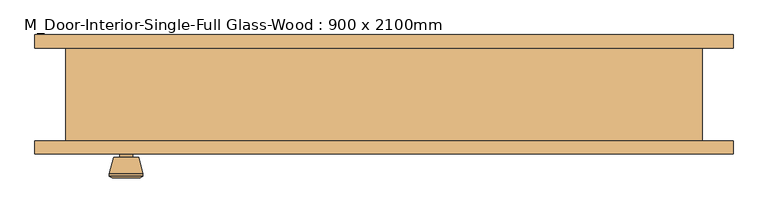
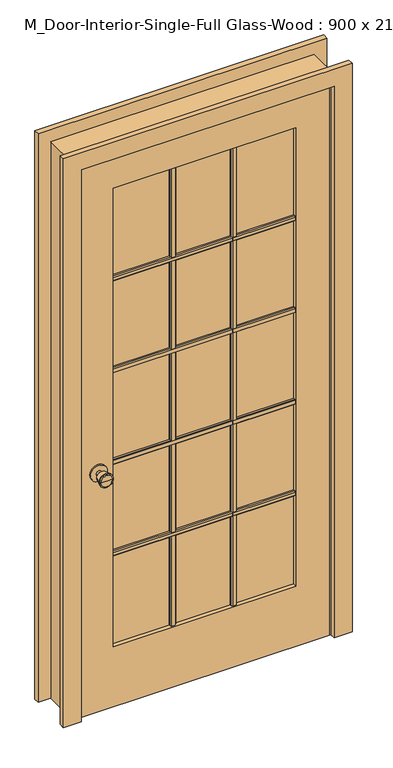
"""IFC4 building model written with IfcOpenShell, lengths in millimetres: door geometry, M_Door-Interior-Single-Full Glass-Wood : 900 x 2100mm."""

from ifc_helpers import new_model, si_unit, point, frame, frame_2d, origin, place, context, project, spatial, polyline, circle_curve, trimmed, segment, composite_curve, outline, extrude, faceted_brep, source, transform, mapped, element, save
from ifc_brep_helpers import plane_surface, cylinder_surface, revolved_surface, advanced_brep


def m_door_interior_single_full_glass_wood_900_x_2100mm_7a11e5a0(model_context):
    return source(origin(), model_context, "Body", "SolidModel", [
        extrude(outline(polyline([(-52.075, 1639.525), (-52.075, 1620.475), (-58.425, 1620.475), (-61.6, 1623.65), (-61.6, 1636.35), (-58.425, 1639.525), (-52.075, 1639.525)])), frame((-330.0, 0.0, 0.0), z_axis=(1.0, 0.0, 0.0), x_axis=(0.0, 1.0, 0.0)), (0.0, 0.0, 1.0), 660.0),
        extrude(outline(polyline([(-52.075, 1289.525), (-52.075, 1270.475), (-58.425, 1270.475), (-61.6, 1273.65), (-61.6, 1286.35), (-58.425, 1289.525), (-52.075, 1289.525)])), frame((-330.0, 0.0, 0.0), z_axis=(1.0, 0.0, 0.0), x_axis=(0.0, 1.0, 0.0)), (0.0, 0.0, 1.0), 660.0),
        extrude(outline(polyline([(-52.075, 939.525), (-52.075, 920.475), (-58.425, 920.475), (-61.6, 923.65), (-61.6, 936.35), (-58.425, 939.525), (-52.075, 939.525)])), frame((-330.0, 0.0, 0.0), z_axis=(1.0, 0.0, 0.0), x_axis=(0.0, 1.0, 0.0)), (0.0, 0.0, 1.0), 660.0),
        extrude(outline(polyline([(-52.075, 589.525), (-52.075, 570.475), (-58.425, 570.475), (-61.6, 573.65), (-61.6, 586.35), (-58.425, 589.525), (-52.075, 589.525)])), frame((-330.0, 0.0, 0.0), z_axis=(1.0, 0.0, 0.0), x_axis=(0.0, 1.0, 0.0)), (0.0, 0.0, 1.0), 660.0),
        extrude(outline(polyline([(100.475, -52.075), (119.525, -52.075), (119.525, -58.425), (116.35, -61.6), (103.65, -61.6), (100.475, -58.425), (100.475, -52.075)])), frame((0.0, 0.0, 230.0), z_axis=(0.0, 0.0, 1.0), x_axis=(1.0, 0.0, 0.0)), (0.0, 0.0, 1.0), 1750.0),
        extrude(outline(polyline([(-119.525, -52.075), (-100.475, -52.075), (-100.475, -58.425), (-103.65, -61.6), (-116.35, -61.6), (-119.525, -58.425), (-119.525, -52.075)])), frame((0.0, 0.0, 230.0), z_axis=(0.0, 0.0, 1.0), x_axis=(1.0, 0.0, 0.0)), (0.0, 0.0, 1.0), 1750.0),
        extrude(outline(polyline([(-45.075, 1639.525), (-38.725, 1639.525), (-35.55, 1636.35), (-35.55, 1623.65), (-38.725, 1620.475), (-45.075, 1620.475), (-45.075, 1639.525)])), frame((-330.0, 0.0, 0.0), z_axis=(1.0, 0.0, 0.0), x_axis=(0.0, 1.0, 0.0)), (0.0, 0.0, 1.0), 660.0),
        extrude(outline(polyline([(-45.075, 1289.525), (-38.725, 1289.525), (-35.55, 1286.35), (-35.55, 1273.65), (-38.725, 1270.475), (-45.075, 1270.475), (-45.075, 1289.525)])), frame((-330.0, 0.0, 0.0), z_axis=(1.0, 0.0, 0.0), x_axis=(0.0, 1.0, 0.0)), (0.0, 0.0, 1.0), 660.0),
        extrude(outline(polyline([(-45.075, 939.525), (-38.725, 939.525), (-35.55, 936.35), (-35.55, 923.65), (-38.725, 920.475), (-45.075, 920.475), (-45.075, 939.525)])), frame((-330.0, 0.0, 0.0), z_axis=(1.0, 0.0, 0.0), x_axis=(0.0, 1.0, 0.0)), (0.0, 0.0, 1.0), 660.0),
        extrude(outline(polyline([(-45.075, 589.525), (-38.725, 589.525), (-35.55, 586.35), (-35.55, 573.65), (-38.725, 570.475), (-45.075, 570.475), (-45.075, 589.525)])), frame((-330.0, 0.0, 0.0), z_axis=(1.0, 0.0, 0.0), x_axis=(0.0, 1.0, 0.0)), (0.0, 0.0, 1.0), 660.0),
        extrude(outline(polyline([(100.475, -45.075), (100.475, -38.725), (103.65, -35.55), (116.35, -35.55), (119.525, -38.725), (119.525, -45.075), (100.475, -45.075)])), frame((0.0, 0.0, 230.0), z_axis=(0.0, 0.0, 1.0), x_axis=(1.0, 0.0, 0.0)), (0.0, 0.0, 1.0), 1750.0),
        extrude(outline(polyline([(-119.525, -45.075), (-119.525, -38.725), (-116.35, -35.55), (-103.65, -35.55), (-100.475, -38.725), (-100.475, -45.075), (-119.525, -45.075)])), frame((0.0, 0.0, 230.0), z_axis=(0.0, 0.0, 1.0), x_axis=(1.0, 0.0, 0.0)), (0.0, 0.0, 1.0), 1750.0),
        advanced_brep(
        [(-385.0, -25.075, 914.4), (-395.0, -25.075, 914.4), (-375.0, -25.075, 914.4), (-364.5241324, 23.925, 914.4), (-405.4758676, 23.925, 914.4), (-385.0, 23.925, 914.4), (-360.0, 22.0971319, 914.4), (-410.0, 22.0971319, 914.4), (-360.0, 18.6334537, 914.4), (-410.0, 18.6334537, 914.4), (-366.363764, -6.075, 914.4), (-403.636236, -6.075, 914.4), (-375.0, -6.075, 914.4), (-395.0, -6.075, 914.4)],
        [
            (0, 1),
            (1, 2, circle_curve(frame((-385.0, -25.075, 914.4), z_axis=(0.0, -1.0, 0.0), x_axis=(-1.0, 0.0, 0.0)), 10.0)),
            (2, 0),
            (2, 1, circle_curve(frame((-385.0, -25.075, 914.4), z_axis=(0.0, -1.0, 0.0), x_axis=(-1.0, 0.0, 0.0)), 10.0)),
            (3, 4, circle_curve(frame((-385.0, 23.925, 914.4), z_axis=(0.0, 1.0, 0.0), x_axis=(-1.0, 0.0, 0.0)), 20.4758676)),
            (4, 5),
            (5, 3),
            (4, 3, circle_curve(frame((-385.0, 23.925, 914.4), z_axis=(0.0, 1.0, 0.0), x_axis=(-1.0, 0.0, 0.0)), 20.4758676)),
            (6, 7, circle_curve(frame((-385.0, 22.0971319, 914.4), z_axis=(0.0, 1.0, 0.0), x_axis=(-1.0, 0.0, 0.0)), 25.0)),
            (7, 4),
            (3, 6),
            (7, 6, circle_curve(frame((-385.0, 22.0971319, 914.4), z_axis=(0.0, 1.0, 0.0), x_axis=(-1.0, 0.0, 0.0)), 25.0)),
            (8, 9, circle_curve(frame((-385.0, 18.6334537, 914.4), z_axis=(0.0, 1.0, 0.0), x_axis=(-1.0, 0.0, 0.0)), 25.0)),
            (9, 7),
            (6, 8),
            (9, 8, circle_curve(frame((-385.0, 18.6334537, 914.4), z_axis=(0.0, 1.0, 0.0), x_axis=(-1.0, 0.0, 0.0)), 25.0)),
            (10, 11, circle_curve(frame((-385.0, -6.075, 914.4), z_axis=(0.0, 1.0, 0.0), x_axis=(-1.0, 0.0, 0.0)), 18.636236)),
            (11, 9),
            (8, 10),
            (11, 10, circle_curve(frame((-385.0, -6.075, 914.4), z_axis=(0.0, 1.0, 0.0), x_axis=(-1.0, 0.0, 0.0)), 18.636236)),
            (12, 13, circle_curve(frame((-385.0, -6.075, 914.4), z_axis=(0.0, 1.0, 0.0), x_axis=(-1.0, 0.0, 0.0)), 10.0)),
            (13, 11),
            (10, 12),
            (13, 12, circle_curve(frame((-385.0, -6.075, 914.4), z_axis=(0.0, 1.0, 0.0), x_axis=(-1.0, 0.0, 0.0)), 10.0)),
            (1, 13),
            (12, 2),
        ],
        [
            plane_surface(frame((-385.0, -25.075, 914.4), z_axis=(0.0, -1.0, 0.0), x_axis=(-1.0, 0.0, 0.0))),
            plane_surface(frame((-385.0, 23.925, 914.4), z_axis=(0.0, 1.0, 0.0), x_axis=(-1.0, 0.0, 0.0))),
            revolved_surface(polyline([(-405.4758676, 23.925, 914.4), (-410.0, 22.0971319, 914.4)]), (-385.0, -25.075, 914.4), (0.0, -1.0, 0.0)),
            cylinder_surface(frame((-385.0, -25.075, 914.4), z_axis=(0.0, -1.0, 0.0), x_axis=(-1.0, 0.0, 0.0)), 25.0),
            revolved_surface(polyline([(-410.0, 18.6334537, 914.4), (-403.636236, -6.075, 914.4)]), (-385.0, -25.075, 914.4), (0.0, -1.0, 0.0)),
            plane_surface(frame((-385.0, -6.075, 914.4), z_axis=(0.0, -1.0, 0.0), x_axis=(-1.0, 0.0, 0.0))),
            cylinder_surface(frame((-385.0, -25.075, 914.4), z_axis=(0.0, -1.0, 0.0), x_axis=(-1.0, 0.0, 0.0)), 10.0),
        ],
        [
            (0, [[1, 2, 3]]),
            (0, [[-3, 4, -1]]),
            (1, [[5, 6, 7]]),
            (1, [[8, -7, -6]]),
            (2, [[9, 10, -5, 11]]),
            (2, [[12, -11, -8, -10]]),
            (3, [[13, 14, -9, 15]]),
            (3, [[16, -15, -12, -14]]),
            (4, [[17, 18, -13, 19]]),
            (4, [[20, -19, -16, -18]]),
            (5, [[21, 22, -17, 23]]),
            (5, [[24, -23, -20, -22]]),
            (6, [[-2, 25, -21, 26]]),
            (6, [[-4, -26, -24, -25]]),
        ],
    ),
        extrude(outline(composite_curve([segment(trimmed(circle_curve(frame_2d((914.4, -385.0)), 30.0), [point((914.4, -415.0))], [point((914.4, -355.0))], False, "CARTESIAN"), True, "CONTINUOUS"), segment(trimmed(circle_curve(frame_2d((914.4, -385.0)), 30.0), [point((914.4, -355.0))], [point((914.4, -415.0))], False, "CARTESIAN"), True, "CONTINUOUS")], self_intersect=False)), frame((0.0, -31.075, 0.0), z_axis=(0.0, 1.0, 0.0), x_axis=(0.0, 0.0, 1.0)), (0.0, 0.0, 1.0), 6.0),
        advanced_brep(
        [(-385.0, -72.075, 914.4), (-375.0, -72.075, 914.4), (-395.0, -72.075, 914.4), (-364.5241324, -121.075, 914.4), (-385.0, -121.075, 914.4), (-405.4758676, -121.075, 914.4), (-360.0, -119.2471319, 914.4), (-410.0, -119.2471319, 914.4), (-360.0, -115.7834537, 914.4), (-410.0, -115.7834537, 914.4), (-366.363764, -91.075, 914.4), (-403.636236, -91.075, 914.4), (-375.0, -91.075, 914.4), (-395.0, -91.075, 914.4)],
        [
            (0, 1),
            (1, 2, circle_curve(frame((-385.0, -72.075, 914.4), z_axis=(0.0, 1.0, 0.0), x_axis=(-1.0, 0.0, 0.0)), 10.0)),
            (2, 0),
            (2, 1, circle_curve(frame((-385.0, -72.075, 914.4), z_axis=(0.0, 1.0, 0.0), x_axis=(-1.0, 0.0, 0.0)), 10.0)),
            (3, 4),
            (4, 5),
            (5, 3, circle_curve(frame((-385.0, -121.075, 914.4), z_axis=(0.0, -1.0, 0.0), x_axis=(-1.0, 0.0, 0.0)), 20.4758676)),
            (3, 5, circle_curve(frame((-385.0, -121.075, 914.4), z_axis=(0.0, -1.0, 0.0), x_axis=(-1.0, 0.0, 0.0)), 20.4758676)),
            (6, 3),
            (5, 7),
            (7, 6, circle_curve(frame((-385.0, -119.2471319, 914.4), z_axis=(0.0, -1.0, 0.0), x_axis=(-1.0, 0.0, 0.0)), 25.0)),
            (6, 7, circle_curve(frame((-385.0, -119.2471319, 914.4), z_axis=(0.0, -1.0, 0.0), x_axis=(-1.0, 0.0, 0.0)), 25.0)),
            (8, 6),
            (7, 9),
            (9, 8, circle_curve(frame((-385.0, -115.7834537, 914.4), z_axis=(0.0, -1.0, 0.0), x_axis=(-1.0, 0.0, 0.0)), 25.0)),
            (8, 9, circle_curve(frame((-385.0, -115.7834537, 914.4), z_axis=(0.0, -1.0, 0.0), x_axis=(-1.0, 0.0, 0.0)), 25.0)),
            (10, 8),
            (9, 11),
            (11, 10, circle_curve(frame((-385.0, -91.075, 914.4), z_axis=(0.0, -1.0, 0.0), x_axis=(-1.0, 0.0, 0.0)), 18.636236)),
            (10, 11, circle_curve(frame((-385.0, -91.075, 914.4), z_axis=(0.0, -1.0, 0.0), x_axis=(-1.0, 0.0, 0.0)), 18.636236)),
            (12, 10),
            (11, 13),
            (13, 12, circle_curve(frame((-385.0, -91.075, 914.4), z_axis=(0.0, -1.0, 0.0), x_axis=(-1.0, 0.0, 0.0)), 10.0)),
            (12, 13, circle_curve(frame((-385.0, -91.075, 914.4), z_axis=(0.0, -1.0, 0.0), x_axis=(-1.0, 0.0, 0.0)), 10.0)),
            (1, 12),
            (13, 2),
        ],
        [
            plane_surface(frame((-385.0, -72.075, 914.4), z_axis=(0.0, 1.0, 0.0), x_axis=(-1.0, 0.0, 0.0))),
            plane_surface(frame((-385.0, -121.075, 914.4), z_axis=(0.0, -1.0, 0.0), x_axis=(-1.0, 0.0, 0.0))),
            revolved_surface(polyline([(-405.4758676, -121.075, 914.4), (-410.0, -119.2471319, 914.4)]), (-385.0, -72.075, 914.4), (0.0, 1.0, 0.0)),
            cylinder_surface(frame((-385.0, -72.075, 914.4), z_axis=(0.0, 1.0, 0.0), x_axis=(-1.0, 0.0, 0.0)), 25.0),
            revolved_surface(polyline([(-410.0, -115.7834537, 914.4), (-403.636236, -91.075, 914.4)]), (-385.0, -72.075, 914.4), (0.0, 1.0, 0.0)),
            plane_surface(frame((-385.0, -91.075, 914.4), z_axis=(0.0, 1.0, 0.0), x_axis=(-1.0, 0.0, 0.0))),
            cylinder_surface(frame((-385.0, -72.075, 914.4), z_axis=(0.0, 1.0, 0.0), x_axis=(-1.0, 0.0, 0.0)), 10.0),
        ],
        [
            (0, [[1, 2, 3]]),
            (0, [[-3, 4, -1]]),
            (1, [[5, 6, 7]]),
            (1, [[-6, -5, 8]]),
            (2, [[9, -7, 10, 11]]),
            (2, [[-10, -8, -9, 12]]),
            (3, [[13, -11, 14, 15]]),
            (3, [[-14, -12, -13, 16]]),
            (4, [[17, -15, 18, 19]]),
            (4, [[-18, -16, -17, 20]]),
            (5, [[21, -19, 22, 23]]),
            (5, [[-22, -20, -21, 24]]),
            (6, [[25, -23, 26, -2]]),
            (6, [[-26, -24, -25, -4]]),
        ],
    ),
        extrude(outline(composite_curve([segment(trimmed(circle_curve(frame_2d((914.4, -385.0)), 30.0), [point((914.4, -415.0))], [point((914.4, -355.0))], False, "CARTESIAN"), True, "CONTINUOUS"), segment(trimmed(circle_curve(frame_2d((914.4, -385.0)), 30.0), [point((914.4, -355.0))], [point((914.4, -415.0))], False, "CARTESIAN"), True, "CONTINUOUS")], self_intersect=False)), frame((0.0, -72.075, 0.0), z_axis=(0.0, 1.0, 0.0), x_axis=(0.0, 0.0, 1.0)), (0.0, 0.0, 1.0), 6.0),
        extrude(outline(polyline([(2100.0, -450.0), (0.0, -450.0), (0.0, 450.0), (2100.0, 450.0), (2100.0, -450.0)]), holes=[polyline([(1980.0, -330.0), (1980.0, 330.0), (230.0, 330.0), (230.0, -330.0), (1980.0, -330.0)])]), frame((0.0, -66.075, 0.0), z_axis=(0.0, 1.0, 0.0), x_axis=(0.0, 0.0, 1.0)), (0.0, 0.0, 1.0), 35.0),
        faceted_brep([(475.0, -66.075, 0.0), (450.0, -66.075, 0.0), (450.0, -31.075, 0.0), (437.3, -31.075, 0.0), (437.3, 3.85, 0.0), (450.0, 3.85, 0.0), (450.0, 72.425, 0.0), (475.0, 72.425, 0.0), (475.0, 72.425, 2125.0), (475.0, -66.075, 2125.0), (450.0, 72.425, 2100.0), (-450.0, 72.425, 2100.0), (-450.0, 72.425, 0.0), (-475.0, 72.425, 0.0), (-475.0, 72.425, 2125.0), (450.0, 3.85, 2100.0), (437.3, 3.85, 2087.3), (-437.3, 3.85, 2087.3), (-437.3, 3.85, 0.0), (-450.0, 3.85, 0.0), (-450.0, 3.85, 2100.0), (437.3, -31.075, 2087.3), (450.0, -31.075, 2100.0), (-450.0, -31.075, 2100.0), (-450.0, -31.075, 0.0), (-437.3, -31.075, 0.0), (-437.3, -31.075, 2087.3), (450.0, -66.075, 2100.0), (-475.0, -66.075, 2125.0), (-475.0, -66.075, 0.0), (-450.0, -66.075, 0.0), (-450.0, -66.075, 2100.0)], [[[0, 1, 2, 3, 4, 5, 6, 7]], [[7, 8, 9, 0]], [[6, 10, 11, 12, 13, 14, 8, 7]], [[5, 15, 10, 6]], [[4, 16, 17, 18, 19, 20, 15, 5]], [[3, 21, 16, 4]], [[2, 22, 23, 24, 25, 26, 21, 3]], [[1, 27, 22, 2]], [[0, 9, 28, 29, 30, 31, 27, 1]], [[8, 14, 28, 9]], [[15, 20, 11, 10]], [[21, 26, 17, 16]], [[27, 31, 23, 22]], [[29, 13, 12, 19, 18, 25, 24, 30]], [[14, 13, 29, 28]], [[20, 19, 12, 11]], [[26, 25, 18, 17]], [[31, 30, 24, 23]]]),
        extrude(outline(polyline([(330.0, -45.075), (330.0, -52.075), (-330.0, -52.075), (-330.0, -45.075), (330.0, -45.075)])), frame((0.0, 0.0, 230.0), z_axis=(0.0, 0.0, 1.0), x_axis=(1.0, 0.0, 0.0)), (0.0, 0.0, 1.0), 1750.0),
        extrude(outline(polyline([(0.0, 521.35), (2171.35, 521.35), (2171.35, -521.35), (0.0, -521.35), (0.0, -456.35), (2106.35, -456.35), (2106.35, 456.35), (0.0, 456.35), (0.0, 521.35)])), frame((0.0, 72.425, 0.0), z_axis=(0.0, 1.0, 0.0), x_axis=(0.0, 0.0, 1.0)), (0.0, 0.0, 1.0), 20.0),
        extrude(outline(polyline([(0.0, 521.35), (2171.35, 521.35), (2171.35, -521.35), (0.0, -521.35), (0.0, -456.35), (2106.35, -456.35), (2106.35, 456.35), (0.0, 456.35), (0.0, 521.35)])), frame((0.0, -86.075, 0.0), z_axis=(0.0, 1.0, 0.0), x_axis=(0.0, 0.0, 1.0)), (0.0, 0.0, 1.0), 20.0),
    ])


if __name__ == "__main__":
    model = new_model("IFC4")
    model_context = context("Model", 3, world=origin())
    ifc_project = project(units=[si_unit("LENGTHUNIT", "METRE", prefix="MILLI")], contexts=[model_context])
    site = spatial("IfcSite", under=ifc_project)
    building = spatial("IfcBuilding", under=site)
    placement = place(None, origin())
    m_door_interior_single_full_glass_wood_900_x_2100mm_shape = m_door_interior_single_full_glass_wood_900_x_2100mm_7a11e5a0(model_context)
    element("IfcDoor", 1, ObjectType="M_Door-Interior-Single-Full Glass-Wood : 900 x 2100mm", at=placement, inside=building, context=model_context, shape_type="MappedRepresentation", body=[
        mapped(m_door_interior_single_full_glass_wood_900_x_2100mm_shape, transform((0.0, 0.0, 0.0), x_axis=(1.0, 0.0, 0.0), y_axis=(0.0, 1.0, 0.0), z_axis=(0.0, 0.0, 1.0))),
    ])
    save(model, "model.ifc")
